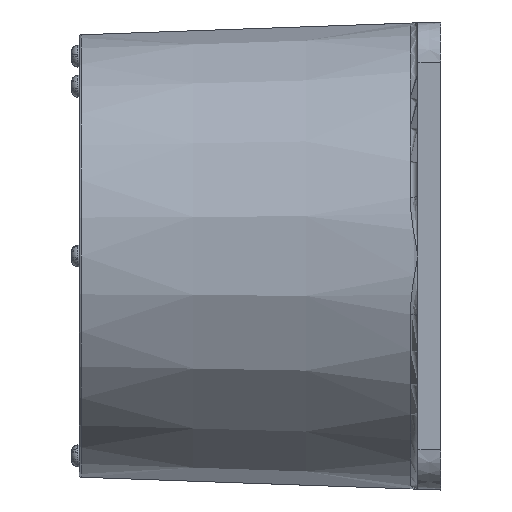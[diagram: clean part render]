
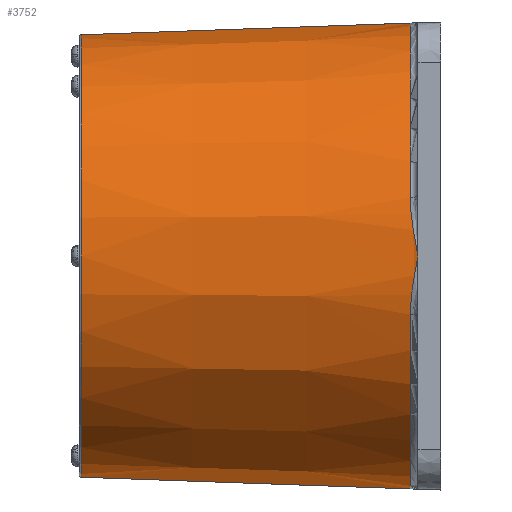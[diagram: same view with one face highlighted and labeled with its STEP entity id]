
A CAD part, left-side view. The second image highlights one B-rep face of the part: STEP entity #3752.
In plain terms, the highlighted conical face has half-angle 2.033 degrees and reference radius 58.25 mm.
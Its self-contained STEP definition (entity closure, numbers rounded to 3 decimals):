
#27 = CARTESIAN_POINT ( 'NONE',  ( -56.427, 7.629, 13.384 ) ) ;
#60 = EDGE_CURVE ( 'NONE', #289, #5348, #4253, .T. ) ;
#105 = EDGE_CURVE ( 'NONE', #181, #5348, #3756, .T. ) ;
#181 = VERTEX_POINT ( 'NONE', #3188 ) ;
#289 = VERTEX_POINT ( 'NONE', #7651 ) ;
#462 = ORIENTED_EDGE ( 'NONE', *, *, #6358, .T. ) ;
#590 = DIRECTION ( 'NONE',  ( 0., 0., 1. ) ) ;
#657 = EDGE_CURVE ( 'NONE', #1728, #181, #5675, .T. ) ;
#698 = CARTESIAN_POINT ( 'NONE',  ( 0., 7.629, 57.979 ) ) ;
#751 = CARTESIAN_POINT ( 'NONE',  ( -57.951, 6.268, 3.051 ) ) ;
#834 = CONICAL_SURFACE ( 'NONE', #7811, 58.25, 0.035 ) ;
#848 = VERTEX_POINT ( 'NONE', #2365 ) ;
#1211 = EDGE_CURVE ( 'NONE', #289, #5826, #2691, .T. ) ;
#1306 = ORIENTED_EDGE ( 'NONE', *, *, #60, .F. ) ;
#1322 = CARTESIAN_POINT ( 'NONE',  ( -57.983, 6.156, 2.441 ) ) ;
#1528 = DIRECTION ( 'NONE',  ( 0., -1., 0. ) ) ;
#1728 = VERTEX_POINT ( 'NONE', #6957 ) ;
#1878 = EDGE_LOOP ( 'NONE', ( #1306, #7427, #2174, #5940, #462, #6534, #6654 ) ) ;
#2174 = ORIENTED_EDGE ( 'NONE', *, *, #2763, .T. ) ;
#2365 = CARTESIAN_POINT ( 'NONE',  ( 0., 7.629, -57.979 ) ) ;
#2541 = CARTESIAN_POINT ( 'NONE',  ( -56.113, 7.629, 14.591 ) ) ;
#2686 = B_SPLINE_CURVE_WITH_KNOTS ( 'NONE', 3,
 ( #3524, #3564, #4121, #8020, #4716, #5385, #6136, #7983 ),
 .UNSPECIFIED., .F., .F.,
 ( 4, 2, 2, 4 ),
 ( 0., 0.004, 0.007, 0.015 ),
 .UNSPECIFIED. ) ;
#2691 = CIRCLE ( 'NONE', #5660, 55.073 ) ;
#2692 = CARTESIAN_POINT ( 'NONE',  ( -56.113, 7.629, -14.591 ) ) ;
#2748 = CARTESIAN_POINT ( 'NONE',  ( 0., 89.518, 0. ) ) ;
#2763 = EDGE_CURVE ( 'NONE', #5826, #848, #7385, .T. ) ;
#2812 = VECTOR ( 'NONE', #7572, 1000. ) ;
#2868 = EDGE_CURVE ( 'NONE', #848, #4680, #2952, .T. ) ;
#2901 = CARTESIAN_POINT ( 'NONE',  ( 0., 0., 0. ) ) ;
#2952 = CIRCLE ( 'NONE', #4315, 57.979 ) ;
#2958 = DIRECTION ( 'NONE',  ( 0., 0., 1. ) ) ;
#3106 = CARTESIAN_POINT ( 'NONE',  ( 0., 7.629, 0. ) ) ;
#3188 = CARTESIAN_POINT ( 'NONE',  ( -56.113, 7.629, 14.591 ) ) ;
#3219 = CARTESIAN_POINT ( 'NONE',  ( -58.041, 5.815, 0.611 ) ) ;
#3422 = DIRECTION ( 'NONE',  ( 0., 0., -1. ) ) ;
#3524 = CARTESIAN_POINT ( 'NONE',  ( -56.113, 7.629, -14.591 ) ) ;
#3564 = CARTESIAN_POINT ( 'NONE',  ( -56.427, 7.629, -13.384 ) ) ;
#3606 = CARTESIAN_POINT ( 'NONE',  ( 0., 0., 58.25 ) ) ;
#3702 = FACE_OUTER_BOUND ( 'NONE', #1878, .T. ) ;
#3752 = ADVANCED_FACE ( 'NONE', ( #3702 ), #834, .T. ) ;
#3756 = CIRCLE ( 'NONE', #5243, 57.979 ) ;
#3891 = CARTESIAN_POINT ( 'NONE',  ( -57.701, 6.798, 6.092 ) ) ;
#4121 = CARTESIAN_POINT ( 'NONE',  ( -56.703, 7.553, -12.174 ) ) ;
#4213 = DIRECTION ( 'NONE',  ( 0., -1., 0. ) ) ;
#4253 = LINE ( 'NONE', #3606, #2812 ) ;
#4315 = AXIS2_PLACEMENT_3D ( 'NONE', #8260, #4404, #2958 ) ;
#4404 = DIRECTION ( 'NONE',  ( 0., 1., 0. ) ) ;
#4680 = VERTEX_POINT ( 'NONE', #2692 ) ;
#4716 = CARTESIAN_POINT ( 'NONE',  ( -57.379, 7.161, -8.523 ) ) ;
#5124 = CARTESIAN_POINT ( 'NONE',  ( -57.18, 7.32, 9.74 ) ) ;
#5207 = CARTESIAN_POINT ( 'NONE',  ( -58.046, 5.757, 0.304 ) ) ;
#5243 = AXIS2_PLACEMENT_3D ( 'NONE', #3106, #5560, #590 ) ;
#5348 = VERTEX_POINT ( 'NONE', #698 ) ;
#5385 = CARTESIAN_POINT ( 'NONE',  ( -57.862, 6.616, -4.877 ) ) ;
#5560 = DIRECTION ( 'NONE',  ( 0., 1., 0. ) ) ;
#5660 = AXIS2_PLACEMENT_3D ( 'NONE', #2748, #1528, #3422 ) ;
#5675 = B_SPLINE_CURVE_WITH_KNOTS ( 'NONE', 3,
 ( #5756, #5207, #3219, #7762, #7094, #1322, #751, #5879, #3891, #8308, #5124, #6339, #27, #2541 ),
 .UNSPECIFIED., .F., .F.,
 ( 4, 2, 2, 2, 2, 2, 4 ),
 ( 0., 0.001, 0.002, 0.004, 0.007, 0.011, 0.015 ),
 .UNSPECIFIED. ) ;
#5756 = CARTESIAN_POINT ( 'NONE',  ( -58.048, 5.7, 0. ) ) ;
#5826 = VERTEX_POINT ( 'NONE', #6581 ) ;
#5879 = CARTESIAN_POINT ( 'NONE',  ( -57.824, 6.593, 4.877 ) ) ;
#5940 = ORIENTED_EDGE ( 'NONE', *, *, #2868, .T. ) ;
#6127 = CARTESIAN_POINT ( 'NONE',  ( 0., 0., -58.25 ) ) ;
#6136 = CARTESIAN_POINT ( 'NONE',  ( -58.031, 6.161, -2.445 ) ) ;
#6339 = CARTESIAN_POINT ( 'NONE',  ( -56.703, 7.553, 12.174 ) ) ;
#6358 = EDGE_CURVE ( 'NONE', #4680, #1728, #2686, .T. ) ;
#6534 = ORIENTED_EDGE ( 'NONE', *, *, #657, .T. ) ;
#6581 = CARTESIAN_POINT ( 'NONE',  ( 0., 89.518, -55.073 ) ) ;
#6654 = ORIENTED_EDGE ( 'NONE', *, *, #105, .T. ) ;
#6957 = CARTESIAN_POINT ( 'NONE',  ( -58.048, 5.7, 0. ) ) ;
#6996 = VECTOR ( 'NONE', #7634, 1000. ) ;
#7094 = CARTESIAN_POINT ( 'NONE',  ( -58.018, 5.987, 1.527 ) ) ;
#7385 = LINE ( 'NONE', #6127, #6996 ) ;
#7427 = ORIENTED_EDGE ( 'NONE', *, *, #1211, .T. ) ;
#7572 = DIRECTION ( 'NONE',  ( 0., -0.999, 0.035 ) ) ;
#7634 = DIRECTION ( 'NONE',  ( 0., -0.999, -0.035 ) ) ;
#7651 = CARTESIAN_POINT ( 'NONE',  ( 0., 89.518, 55.073 ) ) ;
#7762 = CARTESIAN_POINT ( 'NONE',  ( -58.027, 5.93, 1.222 ) ) ;
#7811 = AXIS2_PLACEMENT_3D ( 'NONE', #2901, #4213, #8067 ) ;
#7983 = CARTESIAN_POINT ( 'NONE',  ( -58.048, 5.7, 0. ) ) ;
#8020 = CARTESIAN_POINT ( 'NONE',  ( -57.18, 7.32, -9.74 ) ) ;
#8067 = DIRECTION ( 'NONE',  ( 0., 0., 1. ) ) ;
#8260 = CARTESIAN_POINT ( 'NONE',  ( 0., 7.629, 0. ) ) ;
#8308 = CARTESIAN_POINT ( 'NONE',  ( -57.379, 7.161, 8.523 ) ) ;
